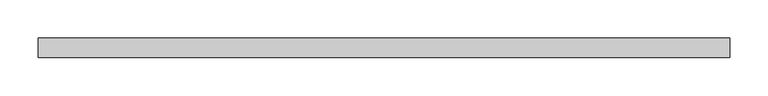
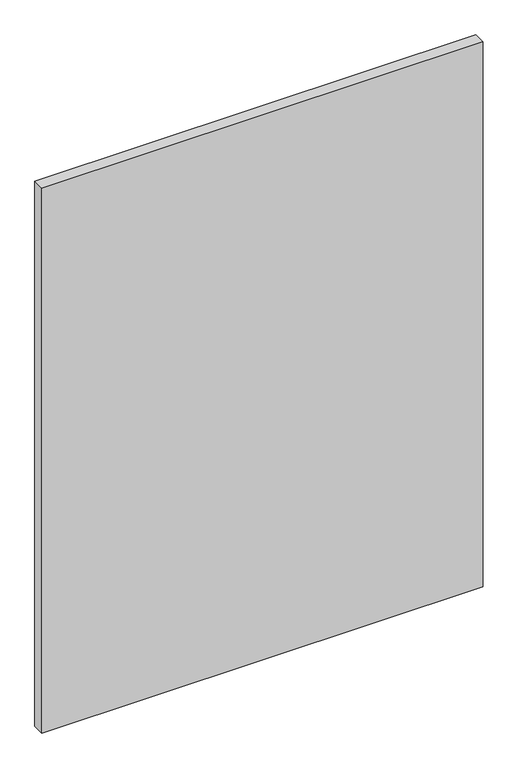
"""IFC4 building model written with IfcOpenShell, lengths in millimetres: plate geometry, Системная панель : С остеклением."""

from ifc_helpers import new_model, si_unit, origin, origin_with_axes, place, context, project, spatial, polyline, outline, extrude, source, transform, mapped, element, save


def plate_5ed84ba8(model_context):
    return source(origin(), model_context, "Body", "SweptSolid", [
        extrude(outline(polyline([(450.0000002, 24.5), (-450.0000002, 24.5), (-450.0000002, 49.5), (450.0000002, 49.5), (450.0000002, 24.5)])), origin_with_axes(), (0.0, 0.0, 1.0), 1175.0),
    ])


if __name__ == "__main__":
    model = new_model("IFC4")
    model_context = context("Model", 3, world=origin())
    ifc_project = project(units=[si_unit("LENGTHUNIT", "METRE", prefix="MILLI")], contexts=[model_context])
    site = spatial("IfcSite", under=ifc_project)
    building = spatial("IfcBuilding", under=site)
    placement = place(None, origin())
    plate_shape = plate_5ed84ba8(model_context)
    element("IfcPlate", 1, ObjectType="Системная панель : С остеклением", at=placement, inside=building, context=model_context, shape_type="MappedRepresentation", body=[
        mapped(plate_shape, transform((0.0, 0.0, 0.0), x_axis=(1.0, 0.0, 0.0), y_axis=(0.0, 1.0, 0.0), z_axis=(0.0, 0.0, 1.0))),
    ])
    save(model, "model.ifc")
